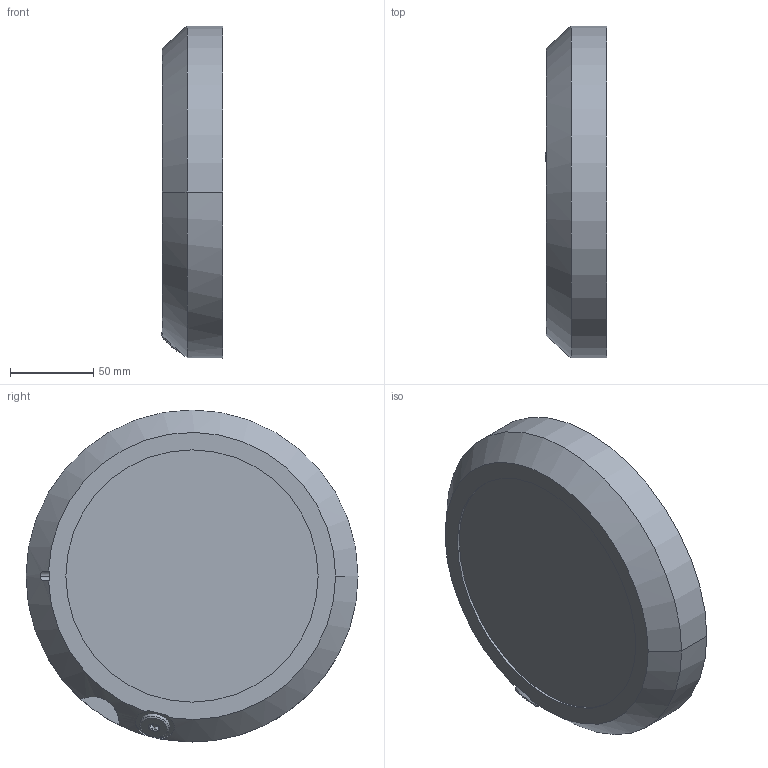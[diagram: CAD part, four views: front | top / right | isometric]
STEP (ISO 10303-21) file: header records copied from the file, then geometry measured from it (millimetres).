
FILE_DESCRIPTION (( 'STEP AP214' ), '1' );
FILE_NAME ('IRB6720-MH3_160kg-320_OC_00_LINK06_CAD.step', '2026-06-10T11:42:06', ( '' ), ( '' ), 'SwSTEP 2.0', 'SolidWorks 2024', '' );
FILE_SCHEMA (( 'AUTOMOTIVE_DESIGN' ));
Length unit declared in the file: millimetre
Products named in the file (1): IRB6720-MH3_160kg-320_OC_00_LINK06_CAD
Bounding box: 37.06 x 200 x 200 mm (x, y, z)
Volume: 817703.7 mm3; surface area: 109063.7 mm2
Topology: 1 solids, 1 shells, 210 faces, 482 edges, 291 vertices
Faces by surface type: cylinder 103, cone 60, plane 42, torus 3, bspline 2
Entity records: 6686 total; most frequent: CARTESIAN_POINT 1862, DIRECTION 1105, ORIENTED_EDGE 916, EDGE_CURVE 458, AXIS2_PLACEMENT_3D 456, VERTEX_POINT 291, EDGE_LOOP 251, CIRCLE 247
